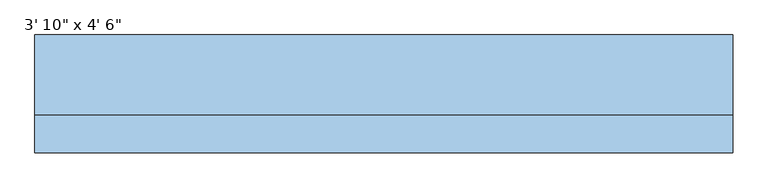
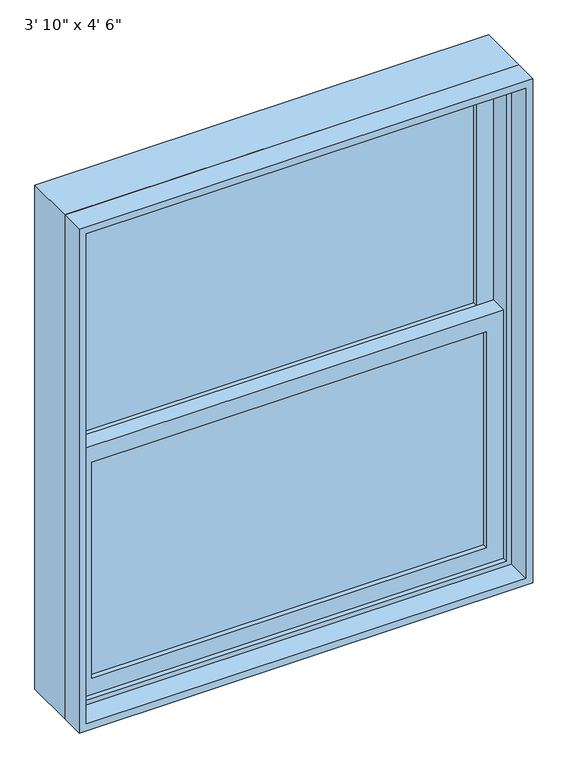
"""IFC4 building model written with IfcOpenShell, lengths in millimetres: window geometry."""

from ifc_helpers import new_model, si_unit, frame, origin, place, context, project, spatial, polyline, outline, extrude, source, transform, mapped, element, save


def window_cbb5bfc6(model_context):
    return source(origin(), model_context, "Body", "SweptSolid", [
        extrude(outline(polyline([(508.0, 19.05), (508.0, 12.7), (-508.0, 12.7), (-508.0, 19.05), (508.0, 19.05)])), frame((0.0, 0.0, 990.6), z_axis=(0.0, 0.0, 1.0), x_axis=(1.0, 0.0, 0.0)), (0.0, 0.0, 1.0), 587.375),
        extrude(outline(polyline([(-508.0, 6.35), (508.0, 6.35), (508.0, 0.0), (-508.0, 0.0), (-508.0, 6.35)])), frame((0.0, 0.0, 990.6), z_axis=(0.0, 0.0, 1.0), x_axis=(1.0, 0.0, 0.0)), (0.0, 0.0, 1.0), 587.375),
        extrude(outline(polyline([(508.0, 63.5), (508.0, 57.15), (-508.0, 57.15), (-508.0, 63.5), (508.0, 63.5)])), frame((0.0, 0.0, 1622.425), z_axis=(0.0, 0.0, 1.0), x_axis=(1.0, 0.0, 0.0)), (0.0, 0.0, 1.0), 587.375),
        extrude(outline(polyline([(-508.0, 50.8), (508.0, 50.8), (508.0, 44.45), (-508.0, 44.45), (-508.0, 50.8)])), frame((0.0, 0.0, 1622.425), z_axis=(0.0, 0.0, 1.0), x_axis=(1.0, 0.0, 0.0)), (0.0, 0.0, 1.0), 587.375),
        extrude(outline(polyline([(1622.425, -552.45), (946.15, -552.45), (946.15, 552.45), (1622.425, 552.45), (1622.425, -552.45)]), holes=[polyline([(1577.975, 508.0), (990.6, 508.0), (990.6, -508.0), (1577.975, -508.0), (1577.975, 508.0)])]), frame((0.0, -12.7, 0.0), z_axis=(0.0, 1.0, 0.0), x_axis=(0.0, 0.0, 1.0)), (0.0, 0.0, 1.0), 44.45),
        extrude(outline(polyline([(2254.25, -552.45), (1577.975, -552.45), (1577.975, 552.45), (2254.25, 552.45), (2254.25, -552.45)]), holes=[polyline([(2209.8, 508.0), (1622.425, 508.0), (1622.425, -508.0), (2209.8, -508.0), (2209.8, 508.0)])]), frame((0.0, 31.75, 0.0), z_axis=(0.0, 1.0, 0.0), x_axis=(0.0, 0.0, 1.0)), (0.0, 0.0, 1.0), 44.45),
        extrude(outline(polyline([(2286.0, -584.2), (914.4, -584.2), (914.4, 584.2), (2286.0, 584.2), (2286.0, -584.2)]), holes=[polyline([(2254.25, 552.45), (946.15, 552.45), (946.15, -552.45), (2254.25, -552.45), (2254.25, 552.45)])]), frame((0.0, -25.4, 0.0), z_axis=(0.0, 1.0, 0.0), x_axis=(0.0, 0.0, 1.0)), (0.0, 0.0, 1.0), 133.35),
        extrude(outline(polyline([(2286.0, 584.2), (2286.0, -584.2), (914.4, -584.2), (914.4, 584.2), (2286.0, 584.2)]), holes=[polyline([(2266.95, 565.15), (933.45, 565.15), (933.45, -565.15), (2266.95, -565.15), (2266.95, 565.15)])]), frame((0.0, -88.9, 0.0), z_axis=(0.0, 1.0, 0.0), x_axis=(0.0, 0.0, 1.0)), (0.0, 0.0, 1.0), 63.5),
    ])


if __name__ == "__main__":
    model = new_model("IFC4")
    model_context = context("Model", 3, world=origin())
    ifc_project = project(units=[si_unit("LENGTHUNIT", "METRE", prefix="MILLI")], contexts=[model_context])
    site = spatial("IfcSite", under=ifc_project)
    building = spatial("IfcBuilding", under=site)
    placement = place(None, origin())
    window_shape = window_cbb5bfc6(model_context)
    element("IfcWindow", 1, ObjectType="Planitar-Double-Hung-Single : 3' 10\" x 4' 6\"", at=placement, inside=building, context=model_context, shape_type="MappedRepresentation", body=[
        mapped(window_shape, transform((0.0, 0.0, 0.0), x_axis=(1.0, 0.0, 0.0), y_axis=(0.0, 1.0, 0.0), z_axis=(0.0, 0.0, 1.0))),
    ])
    save(model, "model.ifc")
